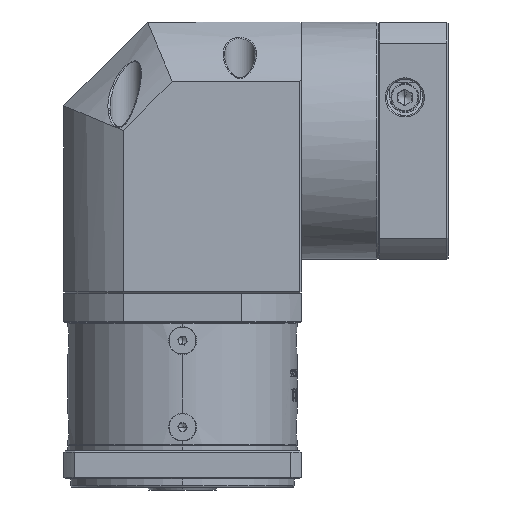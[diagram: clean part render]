
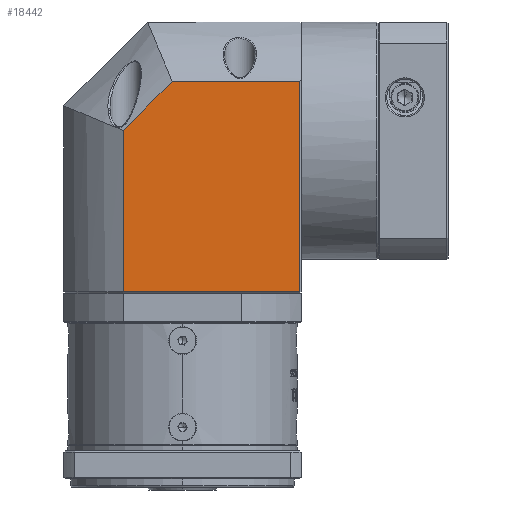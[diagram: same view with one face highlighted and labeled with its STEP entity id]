
A CAD part, front view. The second image highlights one B-rep face of the part: STEP entity #18442.
In plain terms, the highlighted planar face has unit normal (0, -1, 0).
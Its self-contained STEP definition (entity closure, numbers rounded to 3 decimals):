
#10275 = FACE_OUTER_BOUND ( 'NONE', #150524, .T. ) ;
#11704 = LINE ( 'NONE', #102747, #148130 ) ;
#18442 = ADVANCED_FACE ( 'NONE', ( #10275 ), #98497, .F. ) ;
#21143 = LINE ( 'NONE', #34858, #56349 ) ;
#25195 = LINE ( 'NONE', #59005, #95483 ) ;
#25753 = EDGE_CURVE ( 'NONE', #33153, #112181, #51776, .T. ) ;
#26000 = AXIS2_PLACEMENT_3D ( 'NONE', #72515, #164951, #85758 ) ;
#33153 = VERTEX_POINT ( 'NONE', #47191 ) ;
#34209 = EDGE_CURVE ( 'NONE', #33153, #76472, #11704, .T. ) ;
#34858 = CARTESIAN_POINT ( 'NONE',  ( 52.036, -29.557, 170.063 ) ) ;
#36627 = CARTESIAN_POINT ( 'NONE',  ( 51.536, -29.557, 94.85 ) ) ;
#45851 = CARTESIAN_POINT ( 'NONE',  ( -11.677, -29.557, 152.533 ) ) ;
#47191 = CARTESIAN_POINT ( 'NONE',  ( -11.677, -29.557, 94.85 ) ) ;
#51776 = LINE ( 'NONE', #76139, #153087 ) ;
#56349 = VECTOR ( 'NONE', #114018, 1000. ) ;
#59005 = CARTESIAN_POINT ( 'NONE',  ( 51.536, -29.557, 191.35 ) ) ;
#64333 = VECTOR ( 'NONE', #138336, 1000. ) ;
#64821 = VERTEX_POINT ( 'NONE', #156568 ) ;
#70711 = CARTESIAN_POINT ( 'NONE',  ( 5.853, -29.557, 170.063 ) ) ;
#72515 = CARTESIAN_POINT ( 'NONE',  ( 52.036, -29.557, 191.35 ) ) ;
#74161 = ORIENTED_EDGE ( 'NONE', *, *, #138288, .F. ) ;
#74802 = VERTEX_POINT ( 'NONE', #70711 ) ;
#76139 = CARTESIAN_POINT ( 'NONE',  ( 52.036, -29.557, 94.85 ) ) ;
#76472 = VERTEX_POINT ( 'NONE', #107391 ) ;
#85758 = DIRECTION ( 'NONE',  ( -1., 0., 0. ) ) ;
#89409 = DIRECTION ( 'NONE',  ( 1., 0., 0. ) ) ;
#91970 = ORIENTED_EDGE ( 'NONE', *, *, #25753, .T. ) ;
#95483 = VECTOR ( 'NONE', #151455, 1000. ) ;
#98497 = PLANE ( 'NONE',  #26000 ) ;
#102747 = CARTESIAN_POINT ( 'NONE',  ( -11.677, -29.557, 191.35 ) ) ;
#107391 = CARTESIAN_POINT ( 'NONE',  ( -11.677, -29.557, 152.533 ) ) ;
#109952 = ORIENTED_EDGE ( 'NONE', *, *, #139415, .F. ) ;
#112181 = VERTEX_POINT ( 'NONE', #36627 ) ;
#114018 = DIRECTION ( 'NONE',  ( 1., 0., 0. ) ) ;
#122078 = ORIENTED_EDGE ( 'NONE', *, *, #134064, .F. ) ;
#134064 = EDGE_CURVE ( 'NONE', #64821, #112181, #25195, .T. ) ;
#138288 = EDGE_CURVE ( 'NONE', #76472, #74802, #165563, .T. ) ;
#138336 = DIRECTION ( 'NONE',  ( 0.707, 0., 0.707 ) ) ;
#139415 = EDGE_CURVE ( 'NONE', #74802, #64821, #21143, .T. ) ;
#148130 = VECTOR ( 'NONE', #168673, 1000. ) ;
#150524 = EDGE_LOOP ( 'NONE', ( #91970, #122078, #109952, #74161, #169976 ) ) ;
#151455 = DIRECTION ( 'NONE',  ( 0., 0., -1. ) ) ;
#153087 = VECTOR ( 'NONE', #89409, 1000. ) ;
#156568 = CARTESIAN_POINT ( 'NONE',  ( 51.536, -29.557, 170.063 ) ) ;
#164951 = DIRECTION ( 'NONE',  ( 0., 1., 0. ) ) ;
#165563 = LINE ( 'NONE', #45851, #64333 ) ;
#168673 = DIRECTION ( 'NONE',  ( 0., 0., 1. ) ) ;
#169976 = ORIENTED_EDGE ( 'NONE', *, *, #34209, .F. ) ;
